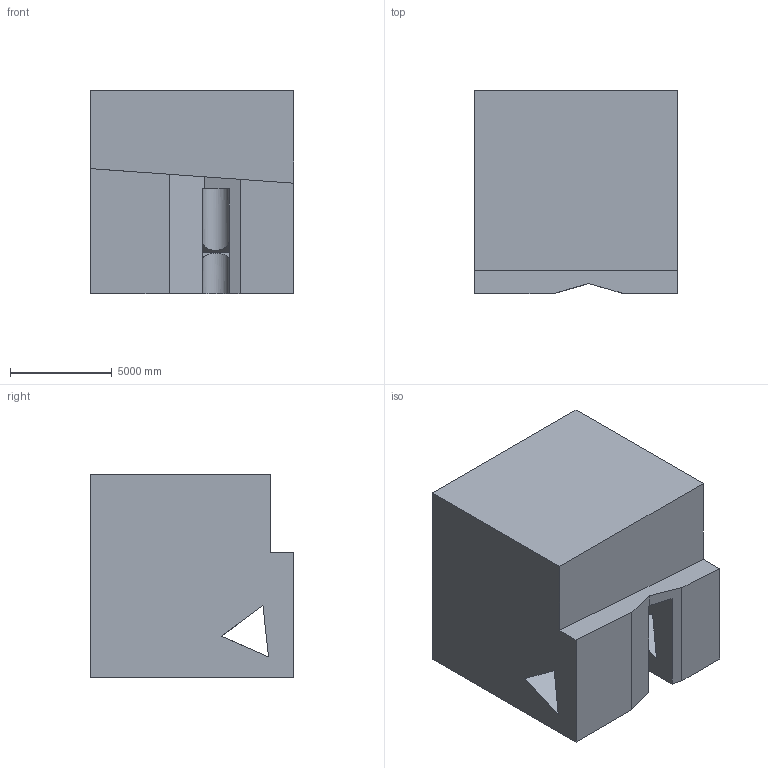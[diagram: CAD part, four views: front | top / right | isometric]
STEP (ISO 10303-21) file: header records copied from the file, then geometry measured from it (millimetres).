
FILE_DESCRIPTION (( 'STEP AP203' ), '1' );
FILE_NAME ('1311.STEP', '2022-08-18T13:41:56', ( 'user' ), ( '' ), 'SwSTEP 2.0', 'SolidWorks 2021', '' );
FILE_SCHEMA (( 'CONFIG_CONTROL_DESIGN' ));
Length unit declared in the file: centimetre
Products named in the file (1): 1311
Bounding box: 10000 x 10000 x 10000 mm (x, y, z)
Volume: 902372621122.7 mm3; surface area: 674125431.5 mm2
Topology: 1 solids, 1 shells, 20 faces, 60 edges, 40 vertices
Faces by surface type: plane 18, cylinder 2
Entity records: 751 total; most frequent: CARTESIAN_POINT 127, ORIENTED_EDGE 120, DIRECTION 102, EDGE_CURVE 60, VECTOR 56, LINE 56, VERTEX_POINT 40, AXIS2_PLACEMENT_3D 23
